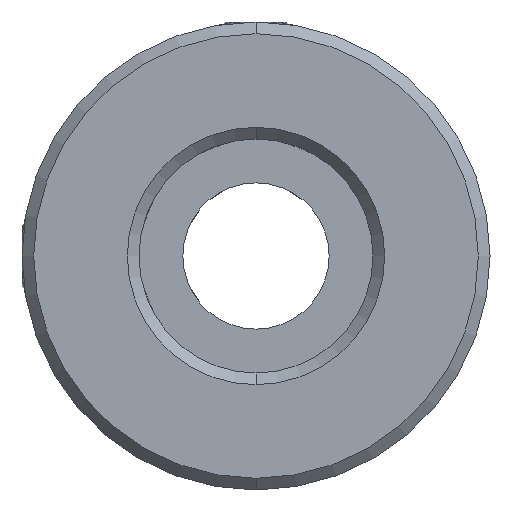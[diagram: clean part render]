
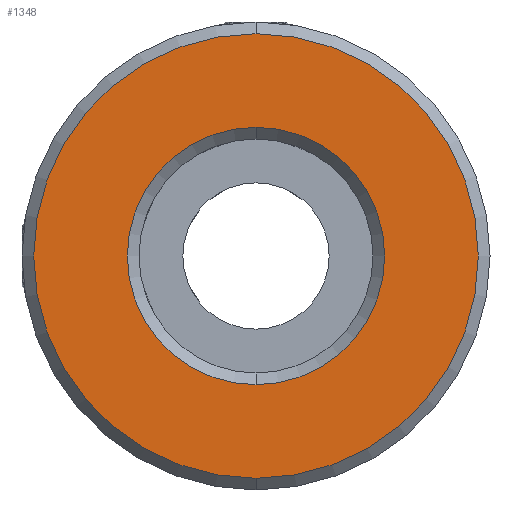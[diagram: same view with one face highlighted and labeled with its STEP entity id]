
A CAD part, front view. The second image highlights one B-rep face of the part: STEP entity #1348.
In plain terms, the highlighted planar face has unit normal (0, -1, 0).
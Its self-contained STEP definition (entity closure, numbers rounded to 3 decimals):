
#101 = DIRECTION ( 'NONE',  ( 0., 1., 0. ) ) ;
#130 = EDGE_CURVE ( 'NONE', #1560, #1863, #1768, .T. ) ;
#167 = DIRECTION ( 'NONE',  ( 0., -1., 0. ) ) ;
#175 = DIRECTION ( 'NONE',  ( 0., -1., 0. ) ) ;
#297 = CIRCLE ( 'NONE', #3653, 15.2 ) ;
#387 = CARTESIAN_POINT ( 'NONE',  ( -10.188, -0.277, 0.046 ) ) ;
#396 = CARTESIAN_POINT ( 'NONE',  ( -10.188, -0.277, 0.046 ) ) ;
#442 = DIRECTION ( 'NONE',  ( 0., 1., 0. ) ) ;
#529 = CIRCLE ( 'NONE', #2496, 8.8 ) ;
#632 = EDGE_CURVE ( 'NONE', #2347, #1871, #529, .T. ) ;
#682 = DIRECTION ( 'NONE',  ( 0., 0., 1. ) ) ;
#718 = CARTESIAN_POINT ( 'NONE',  ( -10.188, -0.277, 15.246 ) ) ;
#724 = DIRECTION ( 'NONE',  ( 0., 1., 0. ) ) ;
#838 = AXIS2_PLACEMENT_3D ( 'NONE', #387, #101, #682 ) ;
#973 = CARTESIAN_POINT ( 'NONE',  ( -10.188, -0.277, 8.846 ) ) ;
#1312 = ORIENTED_EDGE ( 'NONE', *, *, #632, .T. ) ;
#1348 = ADVANCED_FACE ( 'NONE', ( #3006, #3285 ), #3269, .F. ) ;
#1350 = CARTESIAN_POINT ( 'NONE',  ( -10.188, -0.277, -8.754 ) ) ;
#1418 = CARTESIAN_POINT ( 'NONE',  ( -10.188, -0.277, 0.046 ) ) ;
#1525 = EDGE_CURVE ( 'NONE', #1863, #1560, #297, .T. ) ;
#1560 = VERTEX_POINT ( 'NONE', #2248 ) ;
#1726 = CIRCLE ( 'NONE', #2977, 8.8 ) ;
#1768 = CIRCLE ( 'NONE', #2569, 15.2 ) ;
#1779 = EDGE_LOOP ( 'NONE', ( #3342, #1851 ) ) ;
#1851 = ORIENTED_EDGE ( 'NONE', *, *, #130, .T. ) ;
#1863 = VERTEX_POINT ( 'NONE', #718 ) ;
#1871 = VERTEX_POINT ( 'NONE', #973 ) ;
#1954 = DIRECTION ( 'NONE',  ( 0., 0., 1. ) ) ;
#2000 = ORIENTED_EDGE ( 'NONE', *, *, #2221, .T. ) ;
#2019 = CARTESIAN_POINT ( 'NONE',  ( -10.188, -0.277, 0.046 ) ) ;
#2178 = CARTESIAN_POINT ( 'NONE',  ( -10.188, -0.277, 0.046 ) ) ;
#2221 = EDGE_CURVE ( 'NONE', #1871, #2347, #1726, .T. ) ;
#2248 = CARTESIAN_POINT ( 'NONE',  ( -10.188, -0.277, -15.154 ) ) ;
#2347 = VERTEX_POINT ( 'NONE', #1350 ) ;
#2496 = AXIS2_PLACEMENT_3D ( 'NONE', #396, #442, #1954 ) ;
#2564 = DIRECTION ( 'NONE',  ( 0., 0., 1. ) ) ;
#2569 = AXIS2_PLACEMENT_3D ( 'NONE', #2019, #175, #3726 ) ;
#2977 = AXIS2_PLACEMENT_3D ( 'NONE', #2178, #724, #3025 ) ;
#3006 = FACE_OUTER_BOUND ( 'NONE', #1779, .T. ) ;
#3025 = DIRECTION ( 'NONE',  ( 0., 0., 1. ) ) ;
#3269 = PLANE ( 'NONE',  #838 ) ;
#3285 = FACE_BOUND ( 'NONE', #3459, .T. ) ;
#3342 = ORIENTED_EDGE ( 'NONE', *, *, #1525, .T. ) ;
#3459 = EDGE_LOOP ( 'NONE', ( #1312, #2000 ) ) ;
#3653 = AXIS2_PLACEMENT_3D ( 'NONE', #1418, #167, #2564 ) ;
#3726 = DIRECTION ( 'NONE',  ( 0., 0., 1. ) ) ;
